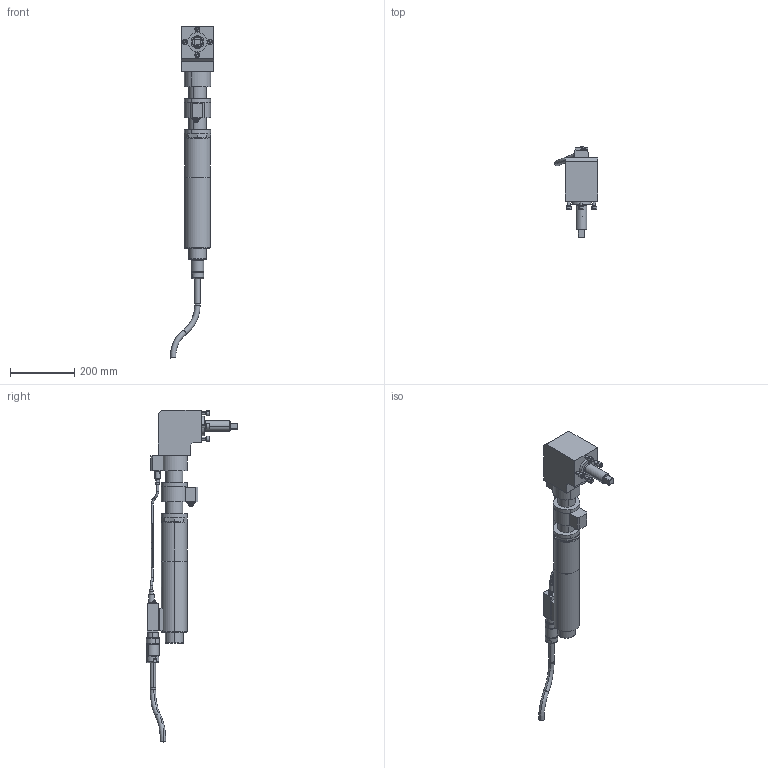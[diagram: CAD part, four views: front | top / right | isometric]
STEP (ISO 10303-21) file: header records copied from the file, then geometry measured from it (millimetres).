
FILE_DESCRIPTION(('CATIA V5 STEP'),'2;1');
FILE_NAME('O:\3D-Schrauber\stp\7920523_ECR326_DWR300_DR300_AW325_AllCATPart.stp','2010-05-05T11:10:16+00:00',('none'),('none'),'CATIA Version 5 Release 19 SP 3 (IN-10)','CATIA V5 STEP AP214','none');
FILE_SCHEMA(('AUTOMOTIVE_DESIGN { 1 0 10303 214 1 1 1 1 }'));
Length unit declared in the file: millimetre
Products named in the file (1): 7920523_ECR326_DWR300_DR300_AW325_AllCATPart
Bounding box: 133.82 x 283.48 x 1033.16 mm (x, y, z)
Volume: 5105368 mm3; surface area: 410339.2 mm2
Topology: 22 solids, 22 shells, 493 faces, 1076 edges, 674 vertices
Faces by surface type: plane 202, cylinder 175, cone 76, torus 40
Entity records: 12838 total; most frequent: CARTESIAN_POINT 2505, ORIENTED_EDGE 2136, DIRECTION 1788, EDGE_CURVE 1068, AXIS2_PLACEMENT_3D 899, VERTEX_POINT 674, EDGE_LOOP 548, CIRCLE 514
